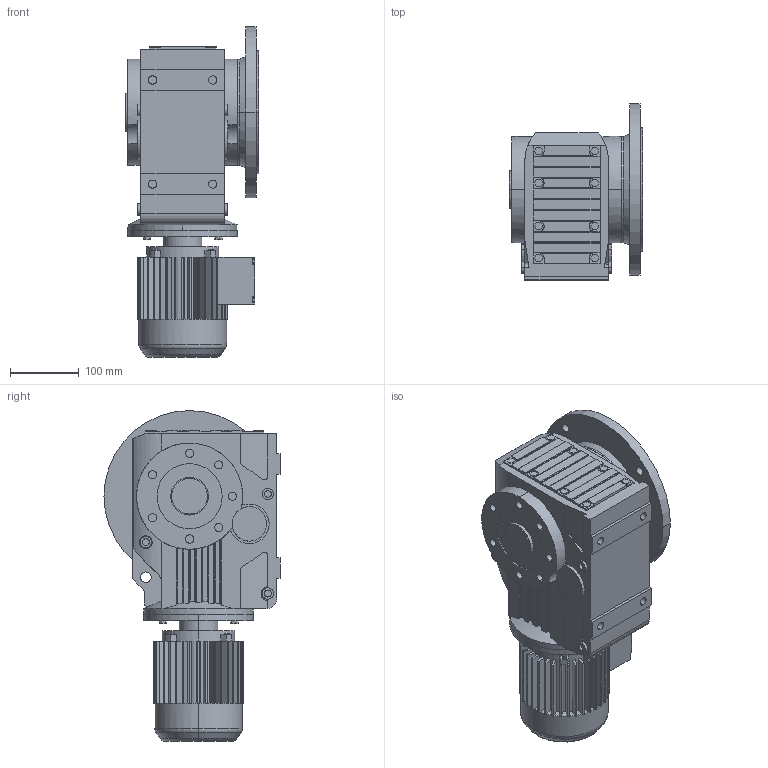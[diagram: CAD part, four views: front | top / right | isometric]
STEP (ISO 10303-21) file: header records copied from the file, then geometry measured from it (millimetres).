
FILE_DESCRIPTION(('Open CASCADE Model'),'2;1');
FILE_NAME('Open CASCADE Shape Model','2018-09-12T13:44:32',('Author'),( 'Open CASCADE'),'Open CASCADE STEP processor 6.3','Open CASCADE 6.3' ,'Unknown');
FILE_SCHEMA(('AUTOMOTIVE_DESIGN_CC2 { 1 2 10303 214 -1 1 5 4 }'));
Length unit declared in the file: millimetre
Products named in the file (5): 41_KAF57DR63-A; KA37‵107_57.step; 萇儂_160-DR63-185-240-132-105.step; す瑩諾陑粣K_57.step; 楊擘K_57.step
Assembly tree (4 placements, depth 2):
  41_KAF57DR63-A
    KA37‵107_57.step
    萇儂_160-DR63-185-240-132-105.step
    す瑩諾陑粣K_57.step
    楊擘K_57.step
Bounding box: 194.83 x 257 x 483 mm (x, y, z)
Volume: 9775570.7 mm3; surface area: 674453.3 mm2
Topology: 4 solids, 4 shells, 874 faces, 2270 edges, 1475 vertices
Faces by surface type: plane 566, cylinder 294, cone 10, torus 4
Entity records: 64916 total; most frequent: CARTESIAN_POINT 22346, DIRECTION 7121, ORIENTED_EDGE 4540, PCURVE 4540, DEFINITIONAL_REPRESENTATION 4540, LINE 3663, VECTOR 3663, EDGE_CURVE 2270
